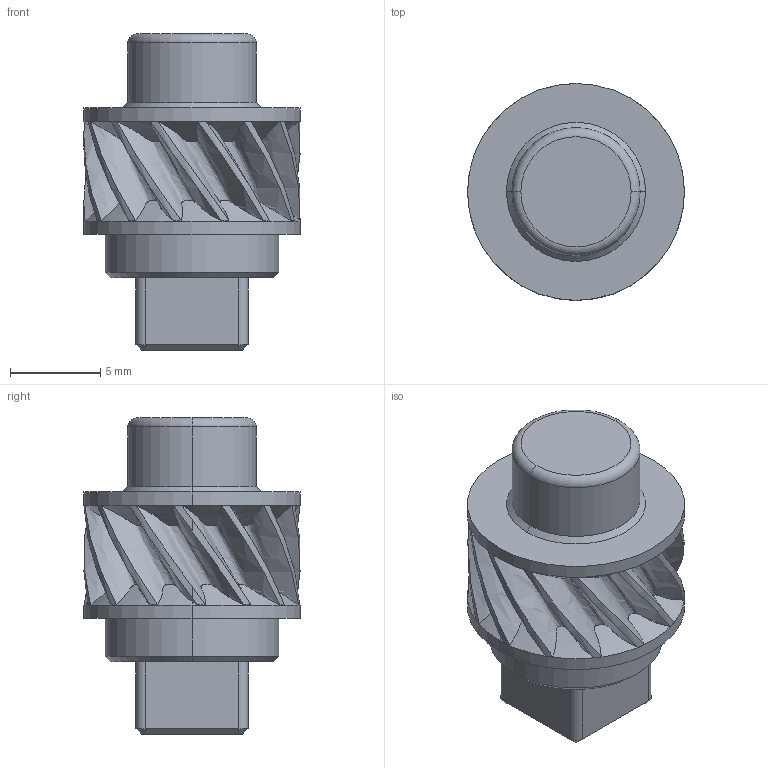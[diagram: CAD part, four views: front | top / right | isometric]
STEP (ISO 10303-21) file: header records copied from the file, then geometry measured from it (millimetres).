
FILE_DESCRIPTION (( 'STEP AP214' ), '1' );
FILE_NAME ('ﾂ ﾇﾊ 19.STEP', '2019-03-21T14:04:32', ( '' ), ( '' ), 'SwSTEP 2.0', 'SolidWorks 2018', '' );
FILE_SCHEMA (( 'AUTOMOTIVE_DESIGN' ));
Length unit declared in the file: millimetre
Products named in the file (1): ﾂ ﾇﾊ 19
Bounding box: 12 x 12 x 17.5 mm (x, y, z)
Volume: 1154.6 mm3; surface area: 876.5 mm2
Topology: 1 solids, 1 shells, 69 faces, 174 edges, 110 vertices
Faces by surface type: cylinder 28, bspline 14, plane 13, cone 12, torus 2
Entity records: 37634 total; most frequent: CARTESIAN_POINT 36102, ORIENTED_EDGE 348, DIRECTION 286, EDGE_CURVE 174, AXIS2_PLACEMENT_3D 120, VERTEX_POINT 110, EDGE_LOOP 72, FACE_OUTER_BOUND 69
